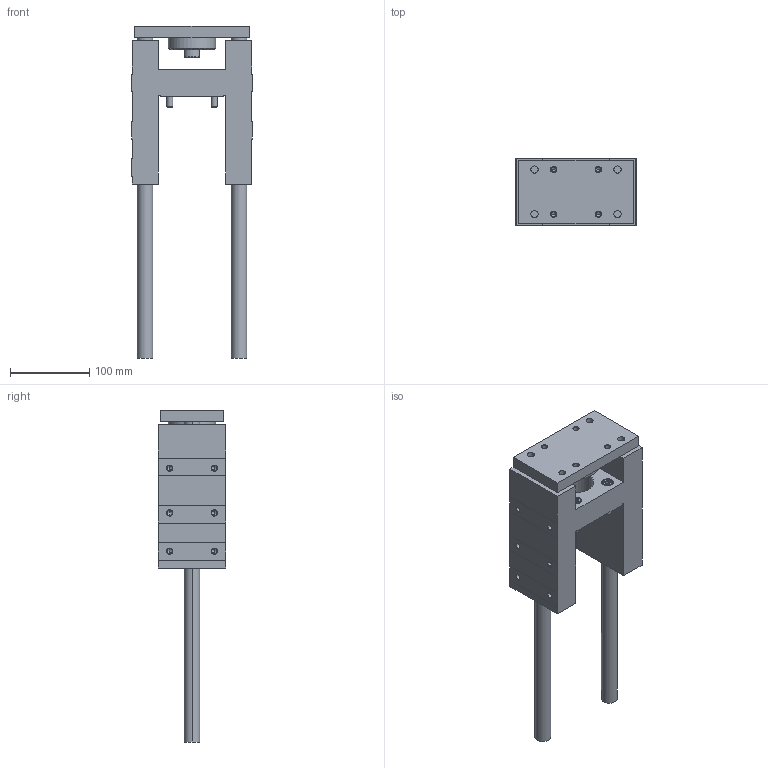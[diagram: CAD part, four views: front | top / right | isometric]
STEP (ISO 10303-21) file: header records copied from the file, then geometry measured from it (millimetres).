
FILE_DESCRIPTION (( 'STEP AP203' ), '1' );
FILE_NAME ('GB63-200.STEP', '2020-04-24T13:22:33', ( '' ), ( '' ), 'SwSTEP 2.0', 'SolidWorks 2019', '' );
FILE_SCHEMA (( 'CONFIG_CONTROL_DESIGN' ));
Length unit declared in the file: millimetre
Products named in the file (1): GB63-200
Bounding box: 152 x 85 x 420 mm (x, y, z)
Volume: 1550541.8 mm3; surface area: 239338.1 mm2
Topology: 6 solids, 6 shells, 363 faces, 814 edges, 462 vertices
Faces by surface type: cone 146, plane 115, cylinder 102
Entity records: 10453 total; most frequent: CARTESIAN_POINT 2284, DIRECTION 1812, ORIENTED_EDGE 1556, EDGE_CURVE 778, AXIS2_PLACEMENT_3D 702, VERTEX_POINT 462, EDGE_LOOP 428, VECTOR 408
